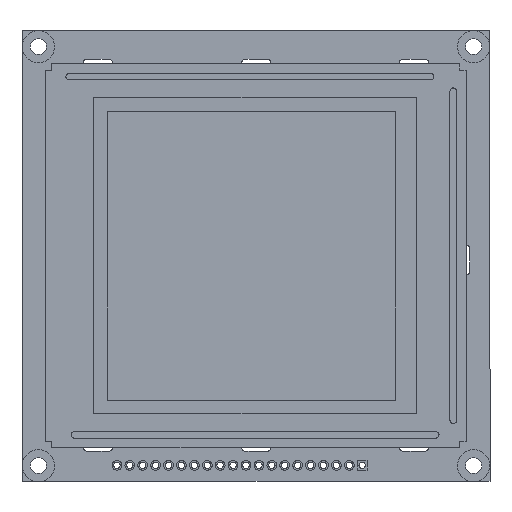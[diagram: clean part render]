
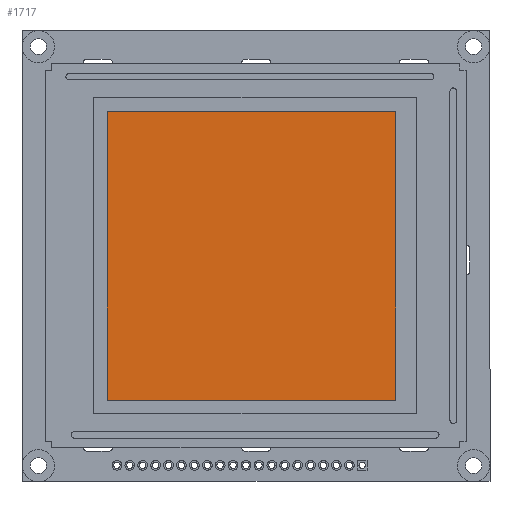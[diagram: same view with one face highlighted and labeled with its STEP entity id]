
A CAD part, top view. The second image highlights one B-rep face of the part: STEP entity #1717.
In plain terms, the highlighted planar face has unit normal (0, 0, 1).
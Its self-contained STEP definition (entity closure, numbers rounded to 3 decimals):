
#139 = AXIS2_PLACEMENT_3D ( 'NONE', #7686, #7168, #749 ) ;
#243 = DIRECTION ( 'NONE',  ( 1., 0., 0. ) ) ;
#292 = CARTESIAN_POINT ( 'NONE',  ( 0., -12.57, 6.7 ) ) ;
#301 = VECTOR ( 'NONE', #3526, 1000. ) ;
#401 = DIRECTION ( 'NONE',  ( -1., 0., 0. ) ) ;
#680 = CARTESIAN_POINT ( 'NONE',  ( 13.22, 0., 6.7 ) ) ;
#749 = DIRECTION ( 'NONE',  ( 1., 0., 0. ) ) ;
#762 = VECTOR ( 'NONE', #243, 1000. ) ;
#836 = EDGE_LOOP ( 'NONE', ( #6993, #5498, #6232, #4084 ) ) ;
#1201 = EDGE_CURVE ( 'NONE', #4989, #7950, #6349, .T. ) ;
#1717 = ADVANCED_FACE ( 'NONE', ( #2162 ), #8384, .T. ) ;
#1849 = LINE ( 'NONE', #6815, #5856 ) ;
#2162 = FACE_OUTER_BOUND ( 'NONE', #836, .T. ) ;
#2777 = VERTEX_POINT ( 'NONE', #4523 ) ;
#3155 = CARTESIAN_POINT ( 'NONE',  ( 57.92, 0., 6.7 ) ) ;
#3345 = EDGE_CURVE ( 'NONE', #8588, #2777, #8819, .T. ) ;
#3526 = DIRECTION ( 'NONE',  ( 0., 1., 0. ) ) ;
#4084 = ORIENTED_EDGE ( 'NONE', *, *, #5953, .F. ) ;
#4523 = CARTESIAN_POINT ( 'NONE',  ( 57.92, -57.34, 6.7 ) ) ;
#4989 = VERTEX_POINT ( 'NONE', #5435 ) ;
#5435 = CARTESIAN_POINT ( 'NONE',  ( 13.22, -57.34, 6.7 ) ) ;
#5469 = CARTESIAN_POINT ( 'NONE',  ( 57.92, -12.57, 6.7 ) ) ;
#5498 = ORIENTED_EDGE ( 'NONE', *, *, #7513, .F. ) ;
#5856 = VECTOR ( 'NONE', #401, 1000. ) ;
#5953 = EDGE_CURVE ( 'NONE', #7950, #8588, #6670, .T. ) ;
#6232 = ORIENTED_EDGE ( 'NONE', *, *, #3345, .F. ) ;
#6349 = LINE ( 'NONE', #680, #301 ) ;
#6663 = DIRECTION ( 'NONE',  ( 0., -1., 0. ) ) ;
#6670 = LINE ( 'NONE', #292, #762 ) ;
#6815 = CARTESIAN_POINT ( 'NONE',  ( 0., -57.34, 6.7 ) ) ;
#6993 = ORIENTED_EDGE ( 'NONE', *, *, #1201, .F. ) ;
#7166 = VECTOR ( 'NONE', #6663, 1000. ) ;
#7168 = DIRECTION ( 'NONE',  ( 0., 0., 1. ) ) ;
#7513 = EDGE_CURVE ( 'NONE', #2777, #4989, #1849, .T. ) ;
#7686 = CARTESIAN_POINT ( 'NONE',  ( 0., 0., 6.7 ) ) ;
#7950 = VERTEX_POINT ( 'NONE', #9072 ) ;
#8384 = PLANE ( 'NONE',  #139 ) ;
#8588 = VERTEX_POINT ( 'NONE', #5469 ) ;
#8819 = LINE ( 'NONE', #3155, #7166 ) ;
#9072 = CARTESIAN_POINT ( 'NONE',  ( 13.22, -12.57, 6.7 ) ) ;
